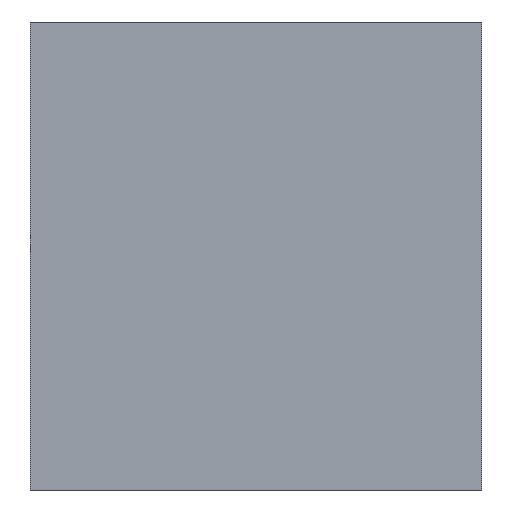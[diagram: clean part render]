
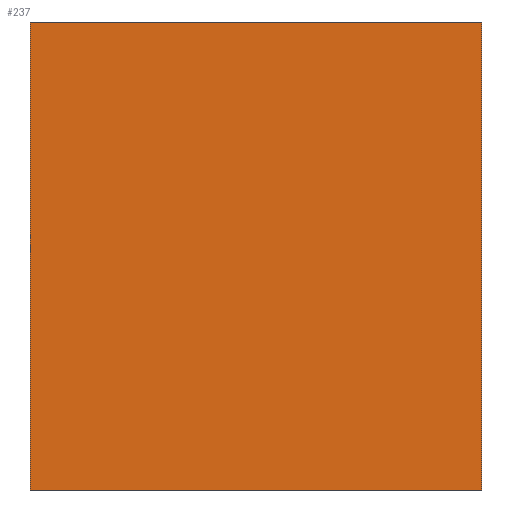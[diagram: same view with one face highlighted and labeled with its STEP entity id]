
A CAD part, front view. The second image highlights one B-rep face of the part: STEP entity #237.
In plain terms, the highlighted planar face has unit normal (0, -1, 0).
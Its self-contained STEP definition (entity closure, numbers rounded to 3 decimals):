
#21 = EDGE_CURVE('',#22,#24,#26,.T.);
#22 = VERTEX_POINT('',#23);
#23 = CARTESIAN_POINT('',(-40.9,-1.45,-5.95));
#24 = VERTEX_POINT('',#25);
#25 = CARTESIAN_POINT('',(-40.9,-1.45,6.));
#26 = SURFACE_CURVE('',#27,(#31,#43),.PCURVE_S1.);
#27 = LINE('',#28,#29);
#28 = CARTESIAN_POINT('',(-40.9,-1.45,-5.95));
#29 = VECTOR('',#30,1.);
#30 = DIRECTION('',(0.,0.,1.));
#31 = PCURVE('',#32,#37);
#32 = PLANE('',#33);
#33 = AXIS2_PLACEMENT_3D('',#34,#35,#36);
#34 = CARTESIAN_POINT('',(-40.9,-1.45,-5.95));
#35 = DIRECTION('',(1.,0.,-0.));
#36 = DIRECTION('',(0.,0.,1.));
#37 = DEFINITIONAL_REPRESENTATION('',(#38),#42);
#38 = LINE('',#39,#40);
#39 = CARTESIAN_POINT('',(0.,0.));
#40 = VECTOR('',#41,1.);
#41 = DIRECTION('',(1.,0.));
#42 = ( GEOMETRIC_REPRESENTATION_CONTEXT(2) 
PARAMETRIC_REPRESENTATION_CONTEXT() REPRESENTATION_CONTEXT('2D SPACE',''
  ) );
#43 = PCURVE('',#44,#49);
#44 = PLANE('',#45);
#45 = AXIS2_PLACEMENT_3D('',#46,#47,#48);
#46 = CARTESIAN_POINT('',(-40.9,-1.45,-5.95));
#47 = DIRECTION('',(-0.,1.,0.));
#48 = DIRECTION('',(0.,0.,1.));
#49 = DEFINITIONAL_REPRESENTATION('',(#50),#54);
#50 = LINE('',#51,#52);
#51 = CARTESIAN_POINT('',(0.,0.));
#52 = VECTOR('',#53,1.);
#53 = DIRECTION('',(1.,0.));
#54 = ( GEOMETRIC_REPRESENTATION_CONTEXT(2) 
PARAMETRIC_REPRESENTATION_CONTEXT() REPRESENTATION_CONTEXT('2D SPACE',''
  ) );
#72 = PLANE('',#73);
#73 = AXIS2_PLACEMENT_3D('',#74,#75,#76);
#74 = CARTESIAN_POINT('',(-40.9,-1.45,-5.95));
#75 = DIRECTION('',(0.,0.,1.));
#76 = DIRECTION('',(1.,0.,-0.));
#126 = PLANE('',#127);
#127 = AXIS2_PLACEMENT_3D('',#128,#129,#130);
#128 = CARTESIAN_POINT('',(-40.9,-1.45,6.));
#129 = DIRECTION('',(0.,0.,1.));
#130 = DIRECTION('',(1.,0.,-0.));
#141 = EDGE_CURVE('',#142,#144,#146,.T.);
#142 = VERTEX_POINT('',#143);
#143 = CARTESIAN_POINT('',(-29.37,-1.45,-5.95));
#144 = VERTEX_POINT('',#145);
#145 = CARTESIAN_POINT('',(-29.37,-1.45,6.));
#146 = SURFACE_CURVE('',#147,(#151,#163),.PCURVE_S1.);
#147 = LINE('',#148,#149);
#148 = CARTESIAN_POINT('',(-29.37,-1.45,-5.95));
#149 = VECTOR('',#150,1.);
#150 = DIRECTION('',(0.,0.,1.));
#151 = PCURVE('',#152,#157);
#152 = PLANE('',#153);
#153 = AXIS2_PLACEMENT_3D('',#154,#155,#156);
#154 = CARTESIAN_POINT('',(-29.37,-1.45,-5.95));
#155 = DIRECTION('',(1.,0.,-0.));
#156 = DIRECTION('',(0.,0.,1.));
#157 = DEFINITIONAL_REPRESENTATION('',(#158),#162);
#158 = LINE('',#159,#160);
#159 = CARTESIAN_POINT('',(0.,0.));
#160 = VECTOR('',#161,1.);
#161 = DIRECTION('',(1.,0.));
#162 = ( GEOMETRIC_REPRESENTATION_CONTEXT(2) 
PARAMETRIC_REPRESENTATION_CONTEXT() REPRESENTATION_CONTEXT('2D SPACE',''
  ) );
#163 = PCURVE('',#44,#164);
#164 = DEFINITIONAL_REPRESENTATION('',(#165),#169);
#165 = LINE('',#166,#167);
#166 = CARTESIAN_POINT('',(0.,11.53));
#167 = VECTOR('',#168,1.);
#168 = DIRECTION('',(1.,0.));
#169 = ( GEOMETRIC_REPRESENTATION_CONTEXT(2) 
PARAMETRIC_REPRESENTATION_CONTEXT() REPRESENTATION_CONTEXT('2D SPACE',''
  ) );
#237 = ADVANCED_FACE('',(#238),#44,.F.);
#238 = FACE_BOUND('',#239,.F.);
#239 = EDGE_LOOP('',(#240,#261,#262,#283));
#240 = ORIENTED_EDGE('',*,*,#241,.F.);
#241 = EDGE_CURVE('',#22,#142,#242,.T.);
#242 = SURFACE_CURVE('',#243,(#247,#254),.PCURVE_S1.);
#243 = LINE('',#244,#245);
#244 = CARTESIAN_POINT('',(-40.9,-1.45,-5.95));
#245 = VECTOR('',#246,1.);
#246 = DIRECTION('',(1.,0.,-0.));
#247 = PCURVE('',#44,#248);
#248 = DEFINITIONAL_REPRESENTATION('',(#249),#253);
#249 = LINE('',#250,#251);
#250 = CARTESIAN_POINT('',(0.,0.));
#251 = VECTOR('',#252,1.);
#252 = DIRECTION('',(0.,1.));
#253 = ( GEOMETRIC_REPRESENTATION_CONTEXT(2) 
PARAMETRIC_REPRESENTATION_CONTEXT() REPRESENTATION_CONTEXT('2D SPACE',''
  ) );
#254 = PCURVE('',#72,#255);
#255 = DEFINITIONAL_REPRESENTATION('',(#256),#260);
#256 = LINE('',#257,#258);
#257 = CARTESIAN_POINT('',(0.,0.));
#258 = VECTOR('',#259,1.);
#259 = DIRECTION('',(1.,0.));
#260 = ( GEOMETRIC_REPRESENTATION_CONTEXT(2) 
PARAMETRIC_REPRESENTATION_CONTEXT() REPRESENTATION_CONTEXT('2D SPACE',''
  ) );
#261 = ORIENTED_EDGE('',*,*,#21,.T.);
#262 = ORIENTED_EDGE('',*,*,#263,.T.);
#263 = EDGE_CURVE('',#24,#144,#264,.T.);
#264 = SURFACE_CURVE('',#265,(#269,#276),.PCURVE_S1.);
#265 = LINE('',#266,#267);
#266 = CARTESIAN_POINT('',(-40.9,-1.45,6.));
#267 = VECTOR('',#268,1.);
#268 = DIRECTION('',(1.,0.,-0.));
#269 = PCURVE('',#44,#270);
#270 = DEFINITIONAL_REPRESENTATION('',(#271),#275);
#271 = LINE('',#272,#273);
#272 = CARTESIAN_POINT('',(11.95,0.));
#273 = VECTOR('',#274,1.);
#274 = DIRECTION('',(0.,1.));
#275 = ( GEOMETRIC_REPRESENTATION_CONTEXT(2) 
PARAMETRIC_REPRESENTATION_CONTEXT() REPRESENTATION_CONTEXT('2D SPACE',''
  ) );
#276 = PCURVE('',#126,#277);
#277 = DEFINITIONAL_REPRESENTATION('',(#278),#282);
#278 = LINE('',#279,#280);
#279 = CARTESIAN_POINT('',(0.,0.));
#280 = VECTOR('',#281,1.);
#281 = DIRECTION('',(1.,0.));
#282 = ( GEOMETRIC_REPRESENTATION_CONTEXT(2) 
PARAMETRIC_REPRESENTATION_CONTEXT() REPRESENTATION_CONTEXT('2D SPACE',''
  ) );
#283 = ORIENTED_EDGE('',*,*,#141,.F.);
